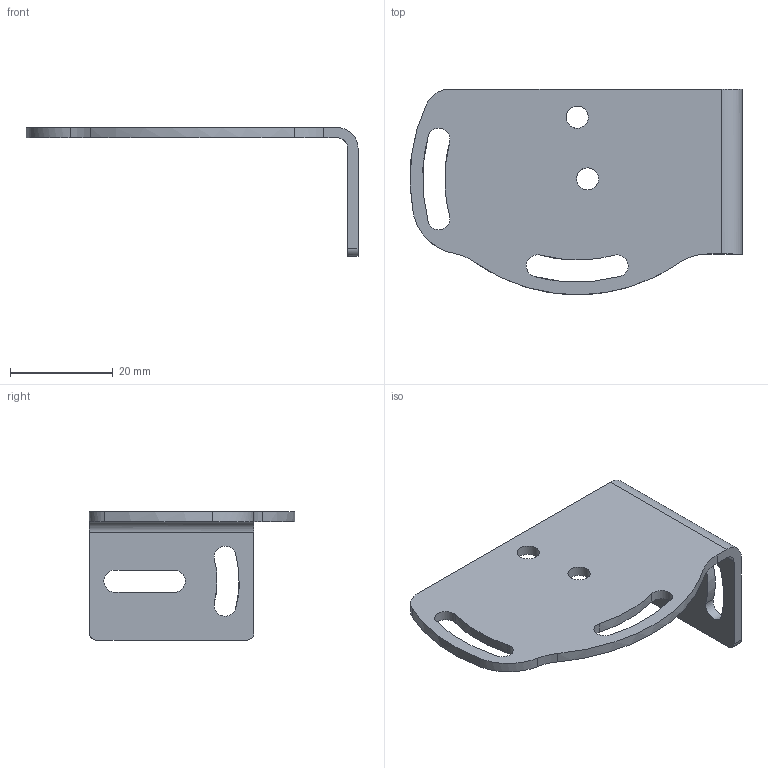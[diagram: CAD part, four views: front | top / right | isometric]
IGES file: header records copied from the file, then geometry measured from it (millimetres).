
Global section: file name: 153-00818_MS F55; native system: Autodesk Inventor 2016; preprocessor: unknown; date: 20180226.114715; units: millimetre
Bounding box: 64.49 x 39.92 x 25 mm (x, y, z)
Volume: 5264.3 mm3; surface area: 6094.6 mm2
Topology: 1 solids, 1 shells, 35 faces, 99 edges, 66 vertices
Faces by surface type: bspline 35
